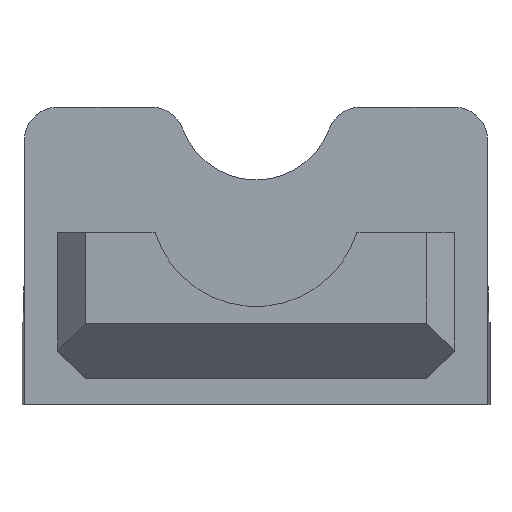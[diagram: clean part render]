
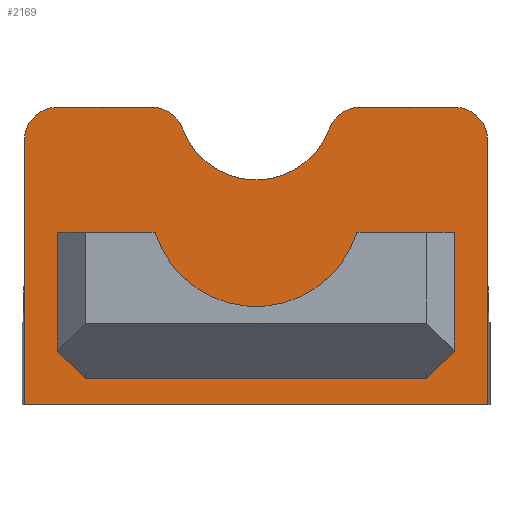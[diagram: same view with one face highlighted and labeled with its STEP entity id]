
A CAD part, left-side view. The second image highlights one B-rep face of the part: STEP entity #2169.
In plain terms, the highlighted planar face has unit normal (-1, 0, 0).
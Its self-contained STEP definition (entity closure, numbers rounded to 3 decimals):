
#15=FACE_BOUND('',#380,.T.);
#116=PLANE('',#2388);
#247=FACE_OUTER_BOUND('',#379,.T.);
#379=EDGE_LOOP('',(#1986,#1987,#1988,#1989,#1990,#1991,#1992,#1993,#1994,
#1995));
#380=EDGE_LOOP('',(#1996,#1997,#1998,#1999,#2000,#2001));
#567=LINE('',#3532,#798);
#575=LINE('',#3558,#806);
#577=LINE('',#3564,#808);
#599=LINE('',#3609,#830);
#601=LINE('',#3615,#832);
#603=LINE('',#3619,#834);
#604=LINE('',#3621,#835);
#608=LINE('',#3636,#839);
#611=LINE('',#3641,#842);
#612=LINE('',#3646,#843);
#798=VECTOR('',#2918,10.);
#806=VECTOR('',#2942,10.);
#808=VECTOR('',#2946,10.);
#830=VECTOR('',#2984,10.);
#832=VECTOR('',#2992,10.);
#834=VECTOR('',#2996,10.);
#835=VECTOR('',#2999,10.);
#839=VECTOR('',#3017,10.);
#842=VECTOR('',#3022,10.);
#843=VECTOR('',#3029,10.);
#913=CIRCLE('',#2374,9.5);
#914=CIRCLE('',#2379,3.);
#915=CIRCLE('',#2381,7.);
#916=CIRCLE('',#2383,3.);
#917=CIRCLE('',#2387,3.);
#918=CIRCLE('',#2389,3.);
#1057=VERTEX_POINT('',#3529);
#1058=VERTEX_POINT('',#3531);
#1067=VERTEX_POINT('',#3554);
#1068=VERTEX_POINT('',#3556);
#1070=VERTEX_POINT('',#3561);
#1071=VERTEX_POINT('',#3563);
#1085=VERTEX_POINT('',#3605);
#1086=VERTEX_POINT('',#3607);
#1087=VERTEX_POINT('',#3613);
#1088=VERTEX_POINT('',#3617);
#1089=VERTEX_POINT('',#3623);
#1090=VERTEX_POINT('',#3627);
#1091=VERTEX_POINT('',#3631);
#1092=VERTEX_POINT('',#3635);
#1093=VERTEX_POINT('',#3639);
#1094=VERTEX_POINT('',#3645);
#1341=EDGE_CURVE('',#1057,#1058,#567,.T.);
#1354=EDGE_CURVE('',#1067,#1068,#575,.T.);
#1356=EDGE_CURVE('',#1071,#1070,#577,.T.);
#1379=EDGE_CURVE('',#1085,#1086,#599,.T.);
#1380=EDGE_CURVE('',#1070,#1085,#913,.T.);
#1382=EDGE_CURVE('',#1086,#1087,#601,.T.);
#1384=EDGE_CURVE('',#1087,#1088,#603,.T.);
#1385=EDGE_CURVE('',#1088,#1071,#604,.T.);
#1387=EDGE_CURVE('',#1089,#1068,#914,.T.);
#1389=EDGE_CURVE('',#1089,#1090,#915,.T.);
#1391=EDGE_CURVE('',#1091,#1090,#916,.T.);
#1392=EDGE_CURVE('',#1092,#1058,#608,.T.);
#1395=EDGE_CURVE('',#1057,#1093,#611,.T.);
#1396=EDGE_CURVE('',#1067,#1093,#917,.T.);
#1397=EDGE_CURVE('',#1091,#1094,#612,.T.);
#1398=EDGE_CURVE('',#1092,#1094,#918,.T.);
#1986=ORIENTED_EDGE('',*,*,#1392,.T.);
#1987=ORIENTED_EDGE('',*,*,#1341,.F.);
#1988=ORIENTED_EDGE('',*,*,#1395,.T.);
#1989=ORIENTED_EDGE('',*,*,#1396,.F.);
#1990=ORIENTED_EDGE('',*,*,#1354,.T.);
#1991=ORIENTED_EDGE('',*,*,#1387,.F.);
#1992=ORIENTED_EDGE('',*,*,#1389,.T.);
#1993=ORIENTED_EDGE('',*,*,#1391,.F.);
#1994=ORIENTED_EDGE('',*,*,#1397,.T.);
#1995=ORIENTED_EDGE('',*,*,#1398,.F.);
#1996=ORIENTED_EDGE('',*,*,#1385,.T.);
#1997=ORIENTED_EDGE('',*,*,#1356,.T.);
#1998=ORIENTED_EDGE('',*,*,#1380,.T.);
#1999=ORIENTED_EDGE('',*,*,#1379,.T.);
#2000=ORIENTED_EDGE('',*,*,#1382,.T.);
#2001=ORIENTED_EDGE('',*,*,#1384,.T.);
#2169=ADVANCED_FACE('',(#247,#15),#116,.F.);
#2374=AXIS2_PLACEMENT_3D('',#3611,#2987,#2988);
#2379=AXIS2_PLACEMENT_3D('',#3625,#3003,#3004);
#2381=AXIS2_PLACEMENT_3D('',#3629,#3008,#3009);
#2383=AXIS2_PLACEMENT_3D('',#3633,#3013,#3014);
#2387=AXIS2_PLACEMENT_3D('',#3643,#3025,#3026);
#2388=AXIS2_PLACEMENT_3D('',#3644,#3027,#3028);
#2389=AXIS2_PLACEMENT_3D('',#3647,#3030,#3031);
#2918=DIRECTION('',(0.,1.,0.));
#2942=DIRECTION('',(0.,1.,0.));
#2946=DIRECTION('',(0.,-1.,0.));
#2984=DIRECTION('',(0.,-1.,0.));
#2987=DIRECTION('center_axis',(-1.,0.,0.));
#2988=DIRECTION('ref_axis',(0.,1.,0.));
#2992=DIRECTION('',(0.,0.,-1.));
#2996=DIRECTION('',(0.,1.,0.));
#2999=DIRECTION('',(0.,0.,1.));
#3003=DIRECTION('center_axis',(1.,0.,0.));
#3004=DIRECTION('ref_axis',(0.,0.572,0.82));
#3008=DIRECTION('center_axis',(1.,0.,0.));
#3009=DIRECTION('ref_axis',(0.,1.,0.));
#3013=DIRECTION('center_axis',(1.,0.,0.));
#3014=DIRECTION('ref_axis',(0.,-0.572,0.82));
#3017=DIRECTION('',(0.,0.,-1.));
#3022=DIRECTION('',(0.,0.,1.));
#3025=DIRECTION('center_axis',(1.,0.,0.));
#3026=DIRECTION('ref_axis',(0.,-0.707,0.707));
#3027=DIRECTION('center_axis',(1.,0.,0.));
#3028=DIRECTION('ref_axis',(0.,1.,0.));
#3029=DIRECTION('',(0.,1.,0.));
#3030=DIRECTION('center_axis',(1.,0.,0.));
#3031=DIRECTION('ref_axis',(0.,0.707,0.707));
#3529=CARTESIAN_POINT('',(96.15,969.2,-114.478));
#3531=CARTESIAN_POINT('',(96.15,1010.8,-114.478));
#3532=CARTESIAN_POINT('',(96.15,969.2,-114.478));
#3554=CARTESIAN_POINT('',(96.15,972.2,-87.76));
#3556=CARTESIAN_POINT('',(96.15,980.618,-87.76));
#3558=CARTESIAN_POINT('',(96.15,969.2,-87.76));
#3561=CARTESIAN_POINT('',(96.15,999.062,-99.));
#3563=CARTESIAN_POINT('',(96.15,1005.3,-99.));
#3564=CARTESIAN_POINT('',(96.15,990.,-99.));
#3605=CARTESIAN_POINT('',(96.15,980.938,-99.));
#3607=CARTESIAN_POINT('',(96.15,974.7,-99.));
#3609=CARTESIAN_POINT('',(96.15,990.,-99.));
#3611=CARTESIAN_POINT('Origin',(96.15,990.,-96.15));
#3613=CARTESIAN_POINT('',(96.15,974.7,-112.15));
#3615=CARTESIAN_POINT('',(96.15,974.7,-100.));
#3617=CARTESIAN_POINT('',(96.15,1005.3,-112.15));
#3619=CARTESIAN_POINT('',(96.15,990.,-112.15));
#3621=CARTESIAN_POINT('',(96.15,1005.3,-106.046));
#3623=CARTESIAN_POINT('',(96.15,983.433,-89.722));
#3625=CARTESIAN_POINT('Origin',(96.15,980.618,-90.76));
#3627=CARTESIAN_POINT('',(96.15,996.567,-89.722));
#3629=CARTESIAN_POINT('Origin',(96.15,990.,-87.298));
#3631=CARTESIAN_POINT('',(96.15,999.382,-87.76));
#3633=CARTESIAN_POINT('Origin',(96.15,999.382,-90.76));
#3635=CARTESIAN_POINT('',(96.15,1010.8,-90.76));
#3636=CARTESIAN_POINT('',(96.15,1010.8,-106.033));
#3639=CARTESIAN_POINT('',(96.15,969.2,-90.76));
#3641=CARTESIAN_POINT('',(96.15,969.2,-93.851));
#3643=CARTESIAN_POINT('Origin',(96.15,972.2,-90.76));
#3644=CARTESIAN_POINT('Origin',(96.15,990.,-99.942));
#3645=CARTESIAN_POINT('',(96.15,1007.8,-87.76));
#3646=CARTESIAN_POINT('',(96.15,969.2,-87.76));
#3647=CARTESIAN_POINT('Origin',(96.15,1007.8,-90.76));
